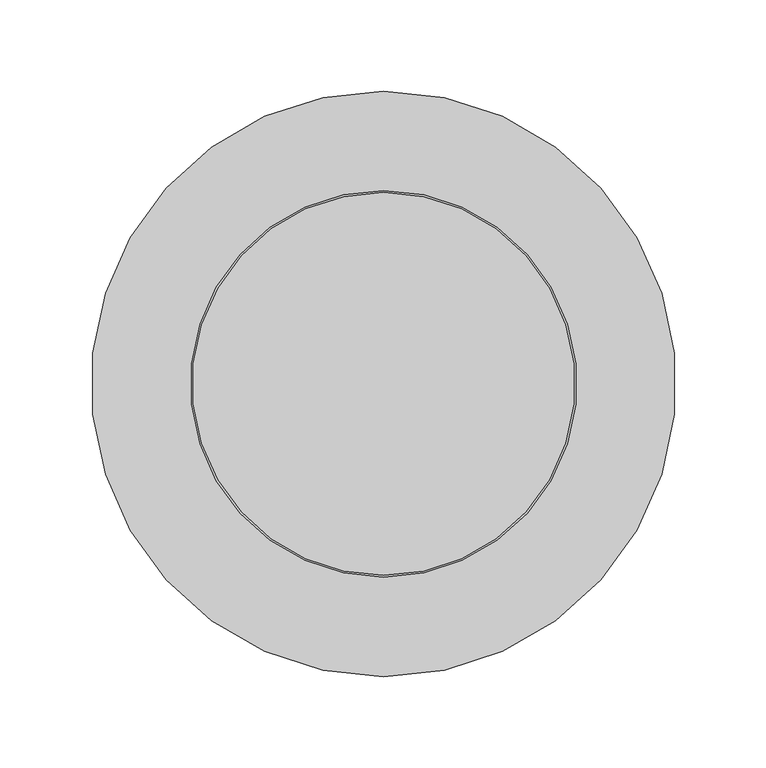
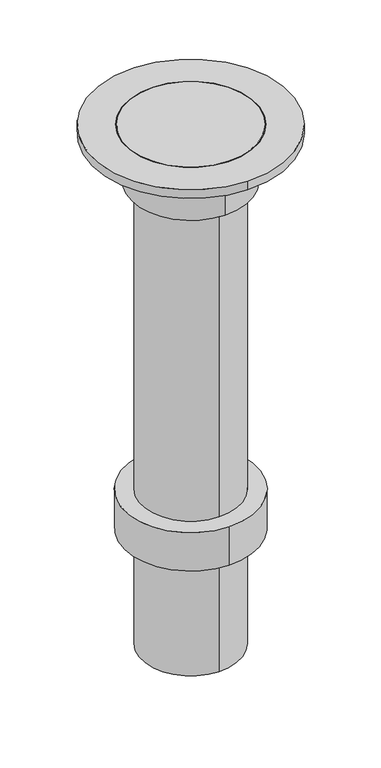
"""IFC4 building model written with IfcOpenShell, lengths in millimetres: valve geometry, Pipelife - Studnia PRO - Teleskop 160 z manszetą : 40.0t/200 D400 T20 z manszetą."""

from ifc_helpers import new_model, si_unit, point, frame, origin, origin_with_axes, origin_2d, place, context, project, spatial, polyline, circle_curve, trimmed, segment, composite_curve, outline, extrude, source, transform, mapped, element, save
from ifc_brep_helpers import plane_surface, cylinder_surface, revolved_surface, advanced_brep


def valve_2b3d439d(model_context):
    return source(origin(), model_context, "Body", "SolidModel", [
        extrude(outline(composite_curve([segment(trimmed(circle_curve(origin_2d(), 108.0), [point((0.0, 108.0))], [point((0.0, -108.0))], False, "CARTESIAN"), True, "CONTINUOUS"), segment(trimmed(circle_curve(origin_2d(), 108.0), [point((0.0, -108.0))], [point((0.0, 108.0))], False, "CARTESIAN"), True, "CONTINUOUS")], self_intersect=False), holes=[composite_curve([segment(trimmed(circle_curve(origin_2d(), 80.0), [point((0.0, 80.0))], [point((0.0, -80.0))], True, "CARTESIAN"), True, "CONTINUOUS"), segment(trimmed(circle_curve(origin_2d(), 80.0), [point((0.0, -80.0))], [point((0.0, 80.0))], True, "CARTESIAN"), True, "CONTINUOUS")], self_intersect=False)]), origin_with_axes(), (0.0, 0.0, 1.0), 66.0),
        extrude(outline(composite_curve([segment(trimmed(circle_curve(origin_2d(), 105.0), [point((0.0, 105.0))], [point((0.0, -105.0))], False, "CARTESIAN"), True, "CONTINUOUS"), segment(trimmed(circle_curve(origin_2d(), 105.0), [point((0.0, -105.0))], [point((0.0, 105.0))], False, "CARTESIAN"), True, "CONTINUOUS")], self_intersect=False)), frame((0.0, 0.0, 685.5), z_axis=(0.0, 0.0, 1.0), x_axis=(1.0, 0.0, 0.0)), (0.0, 0.0, 1.0), 7.5),
        extrude(outline(composite_curve([segment(trimmed(circle_curve(origin_2d(), 96.0), [point((0.0, 96.0))], [point((0.0, -96.0))], False, "CARTESIAN"), True, "CONTINUOUS"), segment(trimmed(circle_curve(origin_2d(), 96.0), [point((0.0, -96.0))], [point((0.0, 96.0))], False, "CARTESIAN"), True, "CONTINUOUS")], self_intersect=False), holes=[composite_curve([segment(trimmed(circle_curve(origin_2d(), 75.5), [point((0.0, 75.5))], [point((0.0, -75.5))], True, "CARTESIAN"), True, "CONTINUOUS"), segment(trimmed(circle_curve(origin_2d(), 75.5), [point((0.0, -75.5))], [point((0.0, 75.5))], True, "CARTESIAN"), True, "CONTINUOUS")], self_intersect=False)]), frame((0.0, 0.0, 595.0), z_axis=(0.0, 0.0, 1.0), x_axis=(1.0, 0.0, 0.0)), (0.0, 0.0, 1.0), 83.0),
        extrude(outline(composite_curve([segment(trimmed(circle_curve(origin_2d(), 80.0), [point((0.0, 80.0))], [point((0.0, -80.0))], False, "CARTESIAN"), True, "CONTINUOUS"), segment(trimmed(circle_curve(origin_2d(), 80.0), [point((0.0, -80.0))], [point((0.0, 80.0))], False, "CARTESIAN"), True, "CONTINUOUS")], self_intersect=False), holes=[composite_curve([segment(trimmed(circle_curve(origin_2d(), 75.5), [point((0.0, 75.5))], [point((0.0, -75.5))], True, "CARTESIAN"), True, "CONTINUOUS"), segment(trimmed(circle_curve(origin_2d(), 75.5), [point((0.0, -75.5))], [point((0.0, 75.5))], True, "CARTESIAN"), True, "CONTINUOUS")], self_intersect=False)]), frame((0.0, 0.0, -200.0), z_axis=(0.0, 0.0, 1.0), x_axis=(1.0, 0.0, 0.0)), (0.0, 0.0, 1.0), 795.0),
        advanced_brep(
        [(0.0, 160.5, 693.0), (0.0, -160.5, 693.0), (0.0, -106.0, 693.0), (0.0, 106.0, 693.0), (0.0, 160.5, 678.0), (0.0, -160.5, 678.0), (0.0, 75.5, 678.0), (0.0, -75.5, 678.0), (0.0, 106.0, 685.5), (0.0, -106.0, 685.5), (0.0, -75.5, 685.5), (0.0, 75.5, 685.5)],
        [
            (0, 1, circle_curve(frame((0.0, 0.0, 693.0), z_axis=(0.0, 0.0, 1.0), x_axis=(0.0, -1.0, 0.0)), 160.5)),
            (1, 0, circle_curve(frame((0.0, 0.0, 693.0), z_axis=(0.0, 0.0, 1.0), x_axis=(0.0, -1.0, 0.0)), 160.5)),
            (2, 3, circle_curve(frame((0.0, 0.0, 693.0), z_axis=(0.0, 0.0, -1.0), x_axis=(0.0, -1.0, 0.0)), 106.0)),
            (3, 2, circle_curve(frame((0.0, 0.0, 693.0), z_axis=(0.0, 0.0, -1.0), x_axis=(0.0, -1.0, 0.0)), 106.0)),
            (4, 5, circle_curve(frame((0.0, 0.0, 678.0), z_axis=(0.0, 0.0, -1.0), x_axis=(0.0, -1.0, 0.0)), 160.5)),
            (5, 4, circle_curve(frame((0.0, 0.0, 678.0), z_axis=(0.0, 0.0, -1.0), x_axis=(0.0, -1.0, 0.0)), 160.5)),
            (6, 7, circle_curve(frame((0.0, 0.0, 678.0), z_axis=(0.0, 0.0, 1.0), x_axis=(0.0, -1.0, 0.0)), 75.5)),
            (7, 6, circle_curve(frame((0.0, 0.0, 678.0), z_axis=(0.0, 0.0, 1.0), x_axis=(0.0, -1.0, 0.0)), 75.5)),
            (0, 4),
            (5, 1),
            (8, 9, circle_curve(frame((0.0, 0.0, 685.5), z_axis=(0.0, 0.0, 1.0), x_axis=(0.0, -1.0, 0.0)), 106.0)),
            (9, 8, circle_curve(frame((0.0, 0.0, 685.5), z_axis=(0.0, 0.0, 1.0), x_axis=(0.0, -1.0, 0.0)), 106.0)),
            (10, 11, circle_curve(frame((0.0, 0.0, 685.5), z_axis=(0.0, 0.0, -1.0), x_axis=(0.0, -1.0, 0.0)), 75.5)),
            (11, 10, circle_curve(frame((0.0, 0.0, 685.5), z_axis=(0.0, 0.0, -1.0), x_axis=(0.0, -1.0, 0.0)), 75.5)),
            (8, 3),
            (2, 9),
            (6, 11),
            (10, 7),
        ],
        [
            plane_surface(frame((0.0, 0.0, 693.0), z_axis=(0.0, 0.0, 1.0), x_axis=(0.0, -1.0, 0.0))),
            plane_surface(frame((0.0, 0.0, 678.0), z_axis=(0.0, 0.0, -1.0), x_axis=(0.0, -1.0, 0.0))),
            cylinder_surface(frame((0.0, 0.0, 693.0), z_axis=(0.0, 0.0, 1.0), x_axis=(0.0, -1.0, 0.0)), 160.5),
            plane_surface(frame((0.0, 0.0, 685.5), z_axis=(0.0, 0.0, 1.0), x_axis=(0.0, -1.0, 0.0))),
            revolved_surface(polyline([(0.0, -106.0, 693.0), (0.0, -106.0, 685.5)]), (0.0, 0.0, 693.0), (0.0, 0.0, 1.0)),
            revolved_surface(polyline([(0.0, -75.5, 685.5), (0.0, -75.5, 678.0)]), (0.0, 0.0, 685.5), (0.0, 0.0, 1.0)),
        ],
        [
            (0, [[1, 2], [3, 4]]),
            (1, [[5, 6], [7, 8]]),
            (2, [[-1, 9, -6, 10]]),
            (2, [[-2, -10, -5, -9]]),
            (3, [[11, 12], [13, 14]]),
            (4, [[-11, 15, -3, 16]]),
            (4, [[-12, -16, -4, -15]]),
            (5, [[17, -13, 18, -7]]),
            (5, [[-17, -8, -18, -14]]),
        ],
    ),
    ])


if __name__ == "__main__":
    model = new_model("IFC4")
    model_context = context("Model", 3, world=origin())
    ifc_project = project(units=[si_unit("LENGTHUNIT", "METRE", prefix="MILLI")], contexts=[model_context])
    site = spatial("IfcSite", under=ifc_project)
    building = spatial("IfcBuilding", under=site)
    placement = place(None, origin())
    valve_shape = valve_2b3d439d(model_context)
    element("IfcValve", 1, ObjectType="Pipelife - Studnia PRO - Teleskop 160 z manszetą : 40.0t/200 D400 T20 z manszetą", at=placement, inside=building, context=model_context, shape_type="MappedRepresentation", body=[
        mapped(valve_shape, transform((0.0, 0.0, 0.0), x_axis=(1.0, 0.0, 0.0), y_axis=(0.0, 1.0, 0.0), z_axis=(0.0, 0.0, 1.0))),
    ])
    save(model, "model.ifc")
